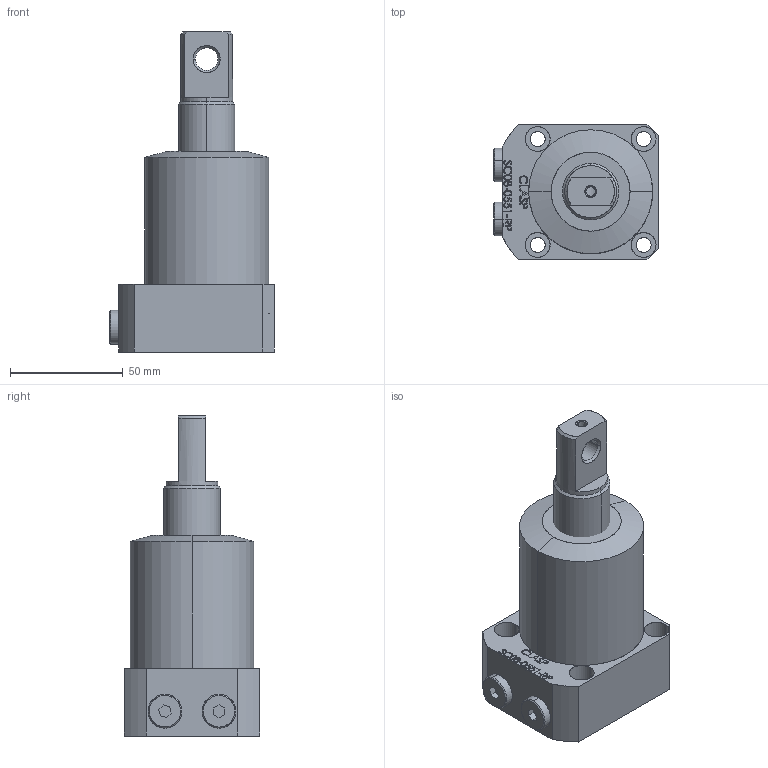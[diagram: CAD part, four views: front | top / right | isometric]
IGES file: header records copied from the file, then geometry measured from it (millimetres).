
Start section: SolidWorks IGES file using analytic representation for surfaces
Global section: file name: D:\karuppas\Clasp\3D model\SWING CYLINDER\Bottom Mounting swing cylinder-P type\SC08-0551-RP\SC08-0551-RP.IGS; native system: SolidWorks 2017; preprocessor: SolidWorks 2017; author: pc; date: 220708.223216; units: millimetre
Bounding box: 73 x 60 x 142 mm (x, y, z)
Surface area: 38102.4 mm2 (no closed solid volume)
Topology: 0 solids, 0 shells, 337 faces, 5330 edges, 5330 vertices
Faces by surface type: bspline 265, revolution 72
